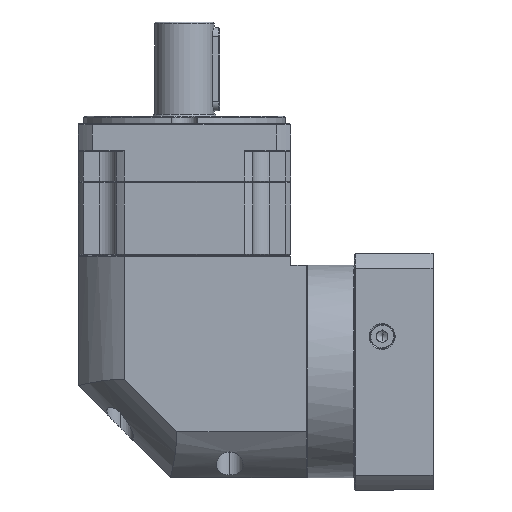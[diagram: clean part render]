
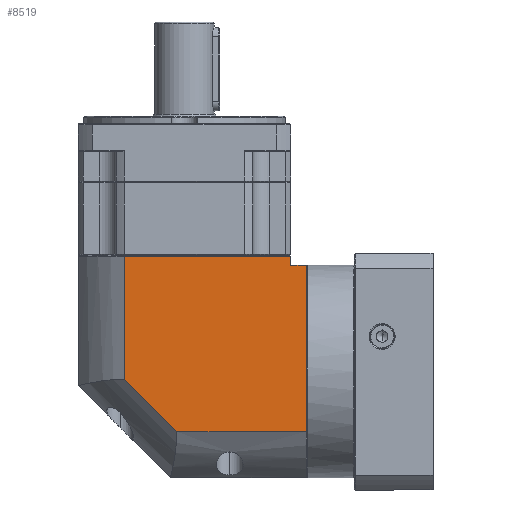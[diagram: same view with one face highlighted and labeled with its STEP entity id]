
A CAD part, left-side view. The second image highlights one B-rep face of the part: STEP entity #8519.
In plain terms, the highlighted planar face has unit normal (-1, 0, 0).
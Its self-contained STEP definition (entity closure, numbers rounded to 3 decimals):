
#8519 = ADVANCED_FACE ( 'NONE', ( #50593 ), #151372, .F. ) ;
#9344 = ORIENTED_EDGE ( 'NONE', *, *, #12538, .F. ) ;
#12538 = EDGE_CURVE ( 'NONE', #103097, #59409, #74082, .T. ) ;
#21189 = VECTOR ( 'NONE', #79515, 1000. ) ;
#24383 = VECTOR ( 'NONE', #74915, 1000. ) ;
#27213 = ORIENTED_EDGE ( 'NONE', *, *, #56700, .F. ) ;
#27325 = VECTOR ( 'NONE', #72030, 1000. ) ;
#28842 = ORIENTED_EDGE ( 'NONE', *, *, #88060, .T. ) ;
#30087 = VECTOR ( 'NONE', #167628, 1000. ) ;
#31007 = DIRECTION ( 'NONE',  ( 1., 0., 0. ) ) ;
#31653 = EDGE_CURVE ( 'NONE', #150106, #156174, #170195, .T. ) ;
#36538 = CARTESIAN_POINT ( 'NONE',  ( -247.009, -108.35, 0.675 ) ) ;
#44349 = CARTESIAN_POINT ( 'NONE',  ( -247.009, 15.05, 95.575 ) ) ;
#45700 = CARTESIAN_POINT ( 'NONE',  ( -247.009, -99.95, -24.425 ) ) ;
#47836 = CARTESIAN_POINT ( 'NONE',  ( -247.009, -10.05, 102.075 ) ) ;
#50593 = FACE_OUTER_BOUND ( 'NONE', #92017, .T. ) ;
#55967 = CARTESIAN_POINT ( 'NONE',  ( -247.009, -10.05, 29.013 ) ) ;
#56700 = EDGE_CURVE ( 'NONE', #73616, #128755, #124130, .T. ) ;
#59140 = CARTESIAN_POINT ( 'NONE',  ( -247.009, 15.05, 0.675 ) ) ;
#59284 = DIRECTION ( 'NONE',  ( 0., 0., 1. ) ) ;
#59409 = VERTEX_POINT ( 'NONE', #36538 ) ;
#60709 = ORIENTED_EDGE ( 'NONE', *, *, #91106, .F. ) ;
#61719 = LINE ( 'NONE', #45700, #114242 ) ;
#69468 = VECTOR ( 'NONE', #100510, 1000. ) ;
#71786 = EDGE_CURVE ( 'NONE', #101349, #156174, #61719, .T. ) ;
#72030 = DIRECTION ( 'NONE',  ( 0., -1., 0. ) ) ;
#73616 = VERTEX_POINT ( 'NONE', #112688 ) ;
#74082 = LINE ( 'NONE', #113000, #109778 ) ;
#74915 = DIRECTION ( 'NONE',  ( 0., 0., 1. ) ) ;
#75324 = CARTESIAN_POINT ( 'NONE',  ( -247.009, -99.95, 90.575 ) ) ;
#79515 = DIRECTION ( 'NONE',  ( 0., 0.707, 0.707 ) ) ;
#84323 = DIRECTION ( 'NONE',  ( 0., 0., -1. ) ) ;
#84886 = CARTESIAN_POINT ( 'NONE',  ( -247.009, -108.35, 90.575 ) ) ;
#88060 = EDGE_CURVE ( 'NONE', #103097, #101349, #140859, .T. ) ;
#88909 = ORIENTED_EDGE ( 'NONE', *, *, #108709, .F. ) ;
#91106 = EDGE_CURVE ( 'NONE', #59409, #73616, #137249, .T. ) ;
#92017 = EDGE_LOOP ( 'NONE', ( #88909, #27213, #60709, #9344, #28842, #155471, #105211 ) ) ;
#100510 = DIRECTION ( 'NONE',  ( 0., 1., 0. ) ) ;
#101349 = VERTEX_POINT ( 'NONE', #75324 ) ;
#103097 = VERTEX_POINT ( 'NONE', #84886 ) ;
#105211 = ORIENTED_EDGE ( 'NONE', *, *, #31653, .F. ) ;
#108709 = EDGE_CURVE ( 'NONE', #128755, #150106, #127284, .T. ) ;
#109778 = VECTOR ( 'NONE', #84323, 1000. ) ;
#111492 = CARTESIAN_POINT ( 'NONE',  ( -247.009, 15.05, 102.075 ) ) ;
#112688 = CARTESIAN_POINT ( 'NONE',  ( -247.009, -38.388, 0.675 ) ) ;
#113000 = CARTESIAN_POINT ( 'NONE',  ( -247.009, -108.35, 102.075 ) ) ;
#114242 = VECTOR ( 'NONE', #59284, 1000. ) ;
#114923 = CARTESIAN_POINT ( 'NONE',  ( -247.009, -10.05, 95.575 ) ) ;
#124130 = LINE ( 'NONE', #159870, #21189 ) ;
#124937 = DIRECTION ( 'NONE',  ( 0., 1., 0. ) ) ;
#125977 = AXIS2_PLACEMENT_3D ( 'NONE', #111492, #31007, #124937 ) ;
#126755 = CARTESIAN_POINT ( 'NONE',  ( -247.009, -99.95, 90.575 ) ) ;
#127284 = LINE ( 'NONE', #47836, #24383 ) ;
#128755 = VERTEX_POINT ( 'NONE', #55967 ) ;
#131467 = CARTESIAN_POINT ( 'NONE',  ( -247.009, -99.95, 95.575 ) ) ;
#137249 = LINE ( 'NONE', #59140, #30087 ) ;
#140859 = LINE ( 'NONE', #126755, #69468 ) ;
#150106 = VERTEX_POINT ( 'NONE', #114923 ) ;
#151372 = PLANE ( 'NONE',  #125977 ) ;
#155471 = ORIENTED_EDGE ( 'NONE', *, *, #71786, .T. ) ;
#156174 = VERTEX_POINT ( 'NONE', #131467 ) ;
#159870 = CARTESIAN_POINT ( 'NONE',  ( -247.009, -38.388, 0.675 ) ) ;
#167628 = DIRECTION ( 'NONE',  ( 0., 1., 0. ) ) ;
#170195 = LINE ( 'NONE', #44349, #27325 ) ;
